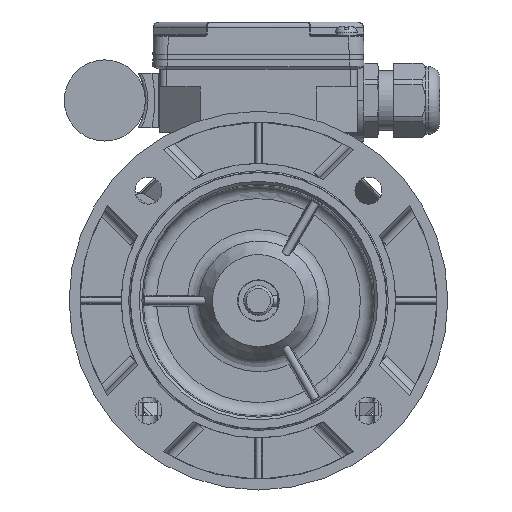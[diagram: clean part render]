
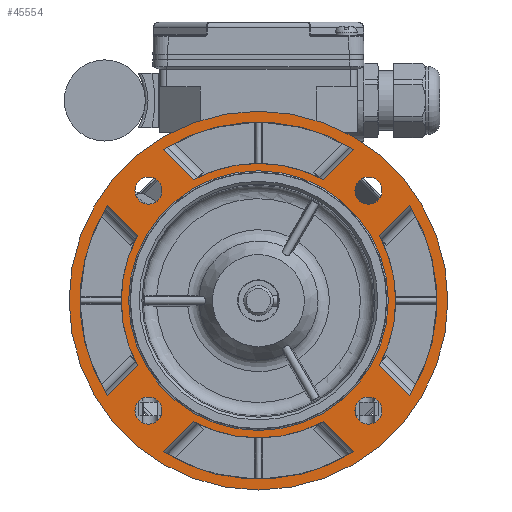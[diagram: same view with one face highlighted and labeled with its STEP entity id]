
A CAD part, left-side view. The second image highlights one B-rep face of the part: STEP entity #45554.
In plain terms, the highlighted planar face has unit normal (-1, 0, 0).
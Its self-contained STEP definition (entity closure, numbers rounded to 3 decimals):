
#3391=LINE('',#68441,#5769);
#3392=LINE('',#68460,#5770);
#3393=LINE('',#68469,#5771);
#3394=LINE('',#68488,#5772);
#3395=LINE('',#68497,#5773);
#3396=LINE('',#68516,#5774);
#3397=LINE('',#68530,#5775);
#3398=LINE('',#68544,#5776);
#5769=VECTOR('',#55697,1000.);
#5770=VECTOR('',#55704,1000.);
#5771=VECTOR('',#55711,1000.);
#5772=VECTOR('',#55718,1000.);
#5773=VECTOR('',#55725,1000.);
#5774=VECTOR('',#55732,1000.);
#5775=VECTOR('',#55739,1000.);
#5776=VECTOR('',#55746,1000.);
#6961=PLANE('',#48396);
#13883=ORIENTED_EDGE('',*,*,#20245,.F.);
#13884=ORIENTED_EDGE('',*,*,#20244,.F.);
#13885=ORIENTED_EDGE('',*,*,#20243,.F.);
#13886=ORIENTED_EDGE('',*,*,#20242,.F.);
#13887=ORIENTED_EDGE('',*,*,#20241,.T.);
#13888=ORIENTED_EDGE('',*,*,#20240,.F.);
#13889=ORIENTED_EDGE('',*,*,#20237,.F.);
#13890=ORIENTED_EDGE('',*,*,#20236,.T.);
#13891=ORIENTED_EDGE('',*,*,#20233,.F.);
#13892=ORIENTED_EDGE('',*,*,#20232,.T.);
#13893=ORIENTED_EDGE('',*,*,#20229,.T.);
#13894=ORIENTED_EDGE('',*,*,#20227,.F.);
#13895=ORIENTED_EDGE('',*,*,#20225,.F.);
#13896=ORIENTED_EDGE('',*,*,#20224,.T.);
#13897=ORIENTED_EDGE('',*,*,#20221,.T.);
#13898=ORIENTED_EDGE('',*,*,#20219,.F.);
#13899=ORIENTED_EDGE('',*,*,#20217,.F.);
#13900=ORIENTED_EDGE('',*,*,#20216,.T.);
#13901=ORIENTED_EDGE('',*,*,#20213,.T.);
#13902=ORIENTED_EDGE('',*,*,#20211,.F.);
#13903=ORIENTED_EDGE('',*,*,#20209,.T.);
#13904=ORIENTED_EDGE('',*,*,#20325,.T.);
#20209=EDGE_CURVE('',#23989,#23989,#25959,.T.);
#20211=EDGE_CURVE('',#23990,#23991,#3391,.T.);
#20213=EDGE_CURVE('',#23992,#23991,#25960,.T.);
#20216=EDGE_CURVE('',#23993,#23992,#3392,.T.);
#20217=EDGE_CURVE('',#23993,#23990,#25961,.T.);
#20219=EDGE_CURVE('',#23994,#23995,#3393,.T.);
#20221=EDGE_CURVE('',#23996,#23995,#25962,.T.);
#20224=EDGE_CURVE('',#23997,#23996,#3394,.T.);
#20225=EDGE_CURVE('',#23997,#23994,#25963,.T.);
#20227=EDGE_CURVE('',#23998,#23999,#3395,.T.);
#20229=EDGE_CURVE('',#24000,#23999,#25964,.T.);
#20232=EDGE_CURVE('',#24001,#24000,#3396,.T.);
#20233=EDGE_CURVE('',#24001,#23998,#25965,.T.);
#20236=EDGE_CURVE('',#24002,#24003,#3397,.T.);
#20237=EDGE_CURVE('',#24002,#24004,#25966,.T.);
#20240=EDGE_CURVE('',#24004,#24005,#3398,.T.);
#20241=EDGE_CURVE('',#24003,#24005,#25967,.T.);
#20242=EDGE_CURVE('',#24006,#24006,#25968,.T.);
#20243=EDGE_CURVE('',#24007,#24007,#25969,.T.);
#20244=EDGE_CURVE('',#24008,#24008,#25970,.T.);
#20245=EDGE_CURVE('',#24009,#24009,#25971,.T.);
#20325=EDGE_CURVE('',#24072,#24072,#26004,.F.);
#23989=VERTEX_POINT('',#68434);
#23990=VERTEX_POINT('',#68440);
#23991=VERTEX_POINT('',#68442);
#23992=VERTEX_POINT('',#68449);
#23993=VERTEX_POINT('',#68459);
#23994=VERTEX_POINT('',#68468);
#23995=VERTEX_POINT('',#68470);
#23996=VERTEX_POINT('',#68477);
#23997=VERTEX_POINT('',#68487);
#23998=VERTEX_POINT('',#68496);
#23999=VERTEX_POINT('',#68498);
#24000=VERTEX_POINT('',#68505);
#24001=VERTEX_POINT('',#68515);
#24002=VERTEX_POINT('',#68524);
#24003=VERTEX_POINT('',#68529);
#24004=VERTEX_POINT('',#68533);
#24005=VERTEX_POINT('',#68543);
#24006=VERTEX_POINT('',#68549);
#24007=VERTEX_POINT('',#68552);
#24008=VERTEX_POINT('',#68555);
#24009=VERTEX_POINT('',#68558);
#24072=VERTEX_POINT('',#68740);
#25959=CIRCLE('',#48293,70.);
#25960=CIRCLE('',#48296,50.75);
#25961=CIRCLE('',#48299,66.);
#25962=CIRCLE('',#48302,50.75);
#25963=CIRCLE('',#48305,66.);
#25964=CIRCLE('',#48308,50.75);
#25965=CIRCLE('',#48311,66.);
#25966=CIRCLE('',#48314,66.);
#25967=CIRCLE('',#48317,50.75);
#25968=CIRCLE('',#48319,5.);
#25969=CIRCLE('',#48321,5.);
#25970=CIRCLE('',#48323,5.);
#25971=CIRCLE('',#48325,5.);
#26004=CIRCLE('',#48397,48.);
#27972=EDGE_LOOP('',(#13883));
#27973=EDGE_LOOP('',(#13884));
#27974=EDGE_LOOP('',(#13885));
#27975=EDGE_LOOP('',(#13886));
#27976=EDGE_LOOP('',(#13887,#13888,#13889,#13890));
#27977=EDGE_LOOP('',(#13891,#13892,#13893,#13894));
#27978=EDGE_LOOP('',(#13895,#13896,#13897,#13898));
#27979=EDGE_LOOP('',(#13899,#13900,#13901,#13902));
#27980=EDGE_LOOP('',(#13903));
#27981=EDGE_LOOP('',(#13904));
#30210=FACE_BOUND('',#27972,.T.);
#30211=FACE_BOUND('',#27973,.T.);
#30212=FACE_BOUND('',#27974,.T.);
#30213=FACE_BOUND('',#27975,.T.);
#30214=FACE_BOUND('',#27976,.T.);
#30215=FACE_BOUND('',#27977,.T.);
#30216=FACE_BOUND('',#27978,.T.);
#30217=FACE_BOUND('',#27979,.T.);
#30218=FACE_BOUND('',#27980,.T.);
#30219=FACE_BOUND('',#27981,.T.);
#45554=ADVANCED_FACE('',(#30210,#30211,#30212,#30213,#30214,#30215,#30216,
#30217,#30218,#30219),#6961,.T.);
#48293=AXIS2_PLACEMENT_3D('',#68433,#55693,#55694);
#48296=AXIS2_PLACEMENT_3D('',#68448,#55700,#55701);
#48299=AXIS2_PLACEMENT_3D('',#68462,#55707,#55708);
#48302=AXIS2_PLACEMENT_3D('',#68476,#55714,#55715);
#48305=AXIS2_PLACEMENT_3D('',#68490,#55721,#55722);
#48308=AXIS2_PLACEMENT_3D('',#68504,#55728,#55729);
#48311=AXIS2_PLACEMENT_3D('',#68518,#55735,#55736);
#48314=AXIS2_PLACEMENT_3D('',#68532,#55742,#55743);
#48317=AXIS2_PLACEMENT_3D('',#68546,#55749,#55750);
#48319=AXIS2_PLACEMENT_3D('',#68548,#55753,#55754);
#48321=AXIS2_PLACEMENT_3D('',#68551,#55757,#55758);
#48323=AXIS2_PLACEMENT_3D('',#68554,#55761,#55762);
#48325=AXIS2_PLACEMENT_3D('',#68557,#55765,#55766);
#48396=AXIS2_PLACEMENT_3D('',#68738,#55954,#55955);
#48397=AXIS2_PLACEMENT_3D('',#68739,#55956,#55957);
#55693=DIRECTION('',(-1.,0.,0.));
#55694=DIRECTION('',(0.,-1.,0.));
#55697=DIRECTION('',(0.,0.707,0.707));
#55700=DIRECTION('',(-1.,0.,0.));
#55701=DIRECTION('',(0.,-1.,0.));
#55704=DIRECTION('',(0.,-0.707,0.707));
#55707=DIRECTION('',(-1.,0.,0.));
#55708=DIRECTION('',(0.,-1.,0.));
#55711=DIRECTION('',(0.,-0.707,0.707));
#55714=DIRECTION('',(-1.,0.,0.));
#55715=DIRECTION('',(0.,-1.,0.));
#55718=DIRECTION('',(0.,-0.707,-0.707));
#55721=DIRECTION('',(-1.,0.,0.));
#55722=DIRECTION('',(0.,-1.,0.));
#55725=DIRECTION('',(0.,-0.707,-0.707));
#55728=DIRECTION('',(-1.,0.,0.));
#55729=DIRECTION('',(0.,-1.,0.));
#55732=DIRECTION('',(0.,0.707,-0.707));
#55735=DIRECTION('',(-1.,0.,0.));
#55736=DIRECTION('',(0.,-1.,0.));
#55739=DIRECTION('',(0.,0.707,0.707));
#55742=DIRECTION('',(-1.,0.,0.));
#55743=DIRECTION('',(0.,-1.,0.));
#55746=DIRECTION('',(0.,0.707,-0.707));
#55749=DIRECTION('',(-1.,0.,0.));
#55750=DIRECTION('',(0.,-1.,0.));
#55753=DIRECTION('',(-1.,0.,0.));
#55754=DIRECTION('',(0.,-1.,0.));
#55757=DIRECTION('',(-1.,0.,0.));
#55758=DIRECTION('',(0.,0.,-1.));
#55761=DIRECTION('',(-1.,0.,0.));
#55762=DIRECTION('',(0.,1.,0.));
#55765=DIRECTION('',(-1.,0.,0.));
#55766=DIRECTION('',(0.,0.,1.));
#55954=DIRECTION('',(-1.,0.,0.));
#55955=DIRECTION('',(0.,-1.,0.));
#55956=DIRECTION('',(-1.,0.,0.));
#55957=DIRECTION('',(0.,-1.,0.));
#68433=CARTESIAN_POINT('',(-77.,0.,0.));
#68434=CARTESIAN_POINT('',(-77.,-70.,0.));
#68440=CARTESIAN_POINT('',(-77.,-35.168,-55.85));
#68441=CARTESIAN_POINT('',(-77.,-41.278,-61.959));
#68442=CARTESIAN_POINT('',(-77.,-24.023,-44.704));
#68448=CARTESIAN_POINT('',(-77.,0.,0.));
#68449=CARTESIAN_POINT('',(-77.,24.023,-44.704));
#68459=CARTESIAN_POINT('',(-77.,35.168,-55.85));
#68460=CARTESIAN_POINT('',(-77.,41.278,-61.959));
#68462=CARTESIAN_POINT('',(-77.,0.,0.));
#68468=CARTESIAN_POINT('',(-77.,55.85,-35.168));
#68469=CARTESIAN_POINT('',(-77.,61.959,-41.278));
#68470=CARTESIAN_POINT('',(-77.,44.704,-24.023));
#68476=CARTESIAN_POINT('',(-77.,0.,0.));
#68477=CARTESIAN_POINT('',(-77.,44.704,24.023));
#68487=CARTESIAN_POINT('',(-77.,55.85,35.168));
#68488=CARTESIAN_POINT('',(-77.,61.959,41.278));
#68490=CARTESIAN_POINT('',(-77.,0.,0.));
#68496=CARTESIAN_POINT('',(-77.,35.168,55.85));
#68497=CARTESIAN_POINT('',(-77.,41.278,61.959));
#68498=CARTESIAN_POINT('',(-77.,24.023,44.704));
#68504=CARTESIAN_POINT('',(-77.,0.,0.));
#68505=CARTESIAN_POINT('',(-77.,-24.023,44.704));
#68515=CARTESIAN_POINT('',(-77.,-35.168,55.85));
#68516=CARTESIAN_POINT('',(-77.,-41.278,61.959));
#68518=CARTESIAN_POINT('',(-77.,0.,0.));
#68524=CARTESIAN_POINT('',(-77.,-55.85,-35.168));
#68529=CARTESIAN_POINT('',(-77.,-44.704,-24.023));
#68530=CARTESIAN_POINT('',(-77.,-61.959,-41.278));
#68532=CARTESIAN_POINT('',(-77.,0.,0.));
#68533=CARTESIAN_POINT('',(-77.,-55.85,35.168));
#68543=CARTESIAN_POINT('',(-77.,-44.704,24.023));
#68544=CARTESIAN_POINT('',(-77.,-61.959,41.278));
#68546=CARTESIAN_POINT('',(-77.,0.,0.));
#68548=CARTESIAN_POINT('',(-77.,-40.659,40.659));
#68549=CARTESIAN_POINT('',(-77.,-45.659,40.659));
#68551=CARTESIAN_POINT('',(-77.,-40.659,-40.659));
#68552=CARTESIAN_POINT('',(-77.,-40.659,-45.659));
#68554=CARTESIAN_POINT('',(-77.,40.659,-40.659));
#68555=CARTESIAN_POINT('',(-77.,45.659,-40.659));
#68557=CARTESIAN_POINT('',(-77.,40.659,40.659));
#68558=CARTESIAN_POINT('',(-77.,40.659,45.659));
#68738=CARTESIAN_POINT('',(-77.,47.5,0.));
#68739=CARTESIAN_POINT('',(-77.,0.,0.));
#68740=CARTESIAN_POINT('',(-77.,-48.,0.));
